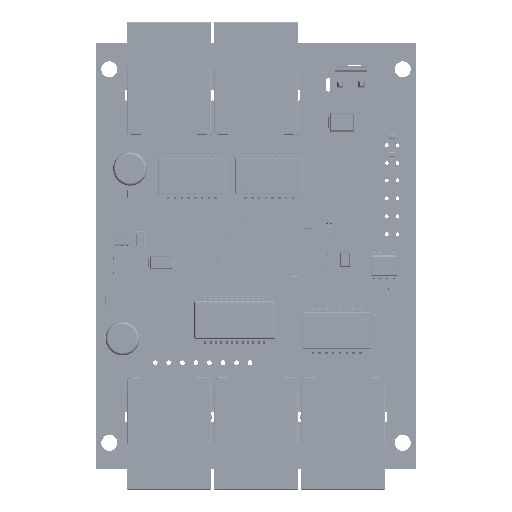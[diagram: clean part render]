
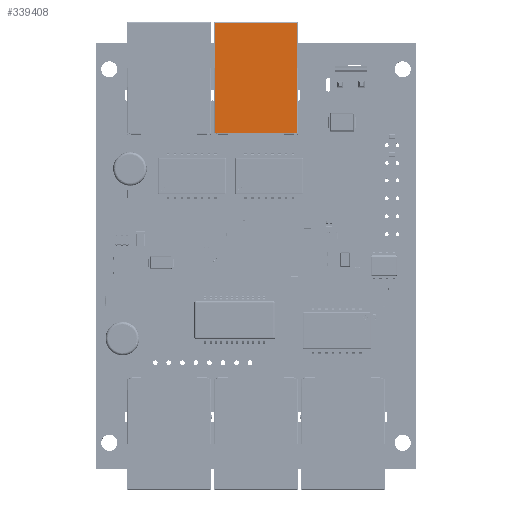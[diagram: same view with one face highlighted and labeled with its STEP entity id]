
A CAD part, top view. The second image highlights one B-rep face of the part: STEP entity #339408.
In plain terms, the highlighted planar face has unit normal (0, 0, 1).
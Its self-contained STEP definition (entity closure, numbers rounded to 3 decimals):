
#321190=DIRECTION('',(0.,-1.,0.));
#321191=VECTOR('',#321190,8.391);
#321192=CARTESIAN_POINT('',(10.567,20.78,
5.41));
#321193=LINE('',#321192,#321191);
#321211=DIRECTION('',(1.,0.,0.));
#321212=VECTOR('',#321211,0.65);
#321213=CARTESIAN_POINT('',(9.917,0.147,
5.41));
#321214=LINE('',#321213,#321212);
#321215=DIRECTION('',(0.,-1.,0.));
#321216=VECTOR('',#321215,0.05);
#321217=CARTESIAN_POINT('',(8.117,0.13,5.41));
#321218=LINE('',#321217,#321216);
#321219=DIRECTION('',(1.,0.,0.));
#321220=VECTOR('',#321219,10.5);
#321221=CARTESIAN_POINT('',(-2.383,0.13,5.41));
#321222=LINE('',#321221,#321220);
#321223=DIRECTION('',(1.,0.,0.));
#321224=VECTOR('',#321223,0.65);
#321225=CARTESIAN_POINT('',(-4.833,0.147,
5.41));
#321226=LINE('',#321225,#321224);
#321236=DIRECTION('',(0.,1.,0.));
#321237=VECTOR('',#321236,8.391);
#321238=CARTESIAN_POINT('',(-4.833,12.389,
5.41));
#321239=LINE('',#321238,#321237);
#321328=DIRECTION('',(0.,1.,0.));
#321329=VECTOR('',#321328,0.067);
#321330=CARTESIAN_POINT('',(-4.183,0.08,
5.41));
#321331=LINE('',#321330,#321329);
#321659=DIRECTION('',(0.,-1.,0.));
#321660=VECTOR('',#321659,0.05);
#321661=CARTESIAN_POINT('',(-2.383,0.13,5.41));
#321662=LINE('',#321661,#321660);
#321701=DIRECTION('',(0.,-1.,0.));
#321702=VECTOR('',#321701,0.067);
#321703=CARTESIAN_POINT('',(9.917,0.147,
5.41));
#321704=LINE('',#321703,#321702);
#321763=DIRECTION('',(0.,-1.,0.));
#321764=VECTOR('',#321763,12.242);
#321765=CARTESIAN_POINT('',(10.567,12.389,
5.41));
#321766=LINE('',#321765,#321764);
#321782=DIRECTION('',(-1.,0.,0.));
#321783=VECTOR('',#321782,1.8);
#321784=CARTESIAN_POINT('',(9.917,0.08,
5.41));
#321785=LINE('',#321784,#321783);
#321790=DIRECTION('',(-1.,0.,0.));
#321791=VECTOR('',#321790,1.8);
#321792=CARTESIAN_POINT('',(-2.383,0.08,
5.41));
#321793=LINE('',#321792,#321791);
#321805=DIRECTION('',(0.,1.,0.));
#321806=VECTOR('',#321805,12.242);
#321807=CARTESIAN_POINT('',(-4.833,0.147,
5.41));
#321808=LINE('',#321807,#321806);
#321820=DIRECTION('',(1.,0.,0.));
#321821=VECTOR('',#321820,15.4);
#321822=CARTESIAN_POINT('',(-4.833,20.78,
5.41));
#321823=LINE('',#321822,#321821);
#329581=CARTESIAN_POINT('',(-4.833,12.389,
5.41));
#329582=CARTESIAN_POINT('',(-4.833,20.78,
5.41));
#329583=VERTEX_POINT('',#329581);
#329584=VERTEX_POINT('',#329582);
#329585=CARTESIAN_POINT('',(-4.833,0.147,
5.41));
#329586=VERTEX_POINT('',#329585);
#329587=CARTESIAN_POINT('',(-4.183,0.147,
5.41));
#329588=VERTEX_POINT('',#329587);
#329589=CARTESIAN_POINT('',(-4.183,0.08,
5.41));
#329590=VERTEX_POINT('',#329589);
#329591=CARTESIAN_POINT('',(-2.383,0.08,
5.41));
#329592=VERTEX_POINT('',#329591);
#329593=CARTESIAN_POINT('',(-2.383,0.13,5.41));
#329594=VERTEX_POINT('',#329593);
#329595=CARTESIAN_POINT('',(8.117,0.13,5.41));
#329596=VERTEX_POINT('',#329595);
#329597=CARTESIAN_POINT('',(8.117,0.08,
5.41));
#329598=VERTEX_POINT('',#329597);
#329599=CARTESIAN_POINT('',(9.917,0.08,
5.41));
#329600=VERTEX_POINT('',#329599);
#329601=CARTESIAN_POINT('',(9.917,0.147,
5.41));
#329602=VERTEX_POINT('',#329601);
#329603=CARTESIAN_POINT('',(10.567,0.147,
5.41));
#329604=VERTEX_POINT('',#329603);
#329605=CARTESIAN_POINT('',(10.567,12.389,
5.41));
#329606=VERTEX_POINT('',#329605);
#329607=CARTESIAN_POINT('',(10.567,20.78,
5.41));
#329608=VERTEX_POINT('',#329607);
#339374=CARTESIAN_POINT('',(10.767,20.78,
5.41));
#339375=DIRECTION('',(0.,0.,-1.));
#339376=DIRECTION('',(-1.,0.,0.));
#339377=AXIS2_PLACEMENT_3D('',#339374,#339375,#339376);
#339378=PLANE('',#339377);
#339380=ORIENTED_EDGE('',*,*,#339379,.T.);
#339382=ORIENTED_EDGE('',*,*,#339381,.T.);
#339383=ORIENTED_EDGE('',*,*,#339360,.T.);
#339385=ORIENTED_EDGE('',*,*,#339384,.T.);
#339387=ORIENTED_EDGE('',*,*,#339386,.F.);
#339389=ORIENTED_EDGE('',*,*,#339388,.T.);
#339391=ORIENTED_EDGE('',*,*,#339390,.T.);
#339393=ORIENTED_EDGE('',*,*,#339392,.F.);
#339395=ORIENTED_EDGE('',*,*,#339394,.F.);
#339397=ORIENTED_EDGE('',*,*,#339396,.T.);
#339399=ORIENTED_EDGE('',*,*,#339398,.T.);
#339401=ORIENTED_EDGE('',*,*,#339400,.T.);
#339403=ORIENTED_EDGE('',*,*,#339402,.F.);
#339405=ORIENTED_EDGE('',*,*,#339404,.T.);
#339406=EDGE_LOOP('',(#339380,#339382,#339383,#339385,#339387,#339389,#339391,
#339393,#339395,#339397,#339399,#339401,#339403,#339405));
#339407=FACE_OUTER_BOUND('',#339406,.F.);
#339360=EDGE_CURVE('',#329608,#329606,#321193,.T.);
#339379=EDGE_CURVE('',#329583,#329584,#321239,.T.);
#339381=EDGE_CURVE('',#329584,#329608,#321823,.T.);
#339384=EDGE_CURVE('',#329606,#329604,#321766,.T.);
#339386=EDGE_CURVE('',#329602,#329604,#321214,.T.);
#339388=EDGE_CURVE('',#329602,#329600,#321704,.T.);
#339390=EDGE_CURVE('',#329600,#329598,#321785,.T.);
#339392=EDGE_CURVE('',#329596,#329598,#321218,.T.);
#339394=EDGE_CURVE('',#329594,#329596,#321222,.T.);
#339396=EDGE_CURVE('',#329594,#329592,#321662,.T.);
#339398=EDGE_CURVE('',#329592,#329590,#321793,.T.);
#339400=EDGE_CURVE('',#329590,#329588,#321331,.T.);
#339402=EDGE_CURVE('',#329586,#329588,#321226,.T.);
#339404=EDGE_CURVE('',#329586,#329583,#321808,.T.);
#339408=ADVANCED_FACE('',(#339407),#339378,.F.);
